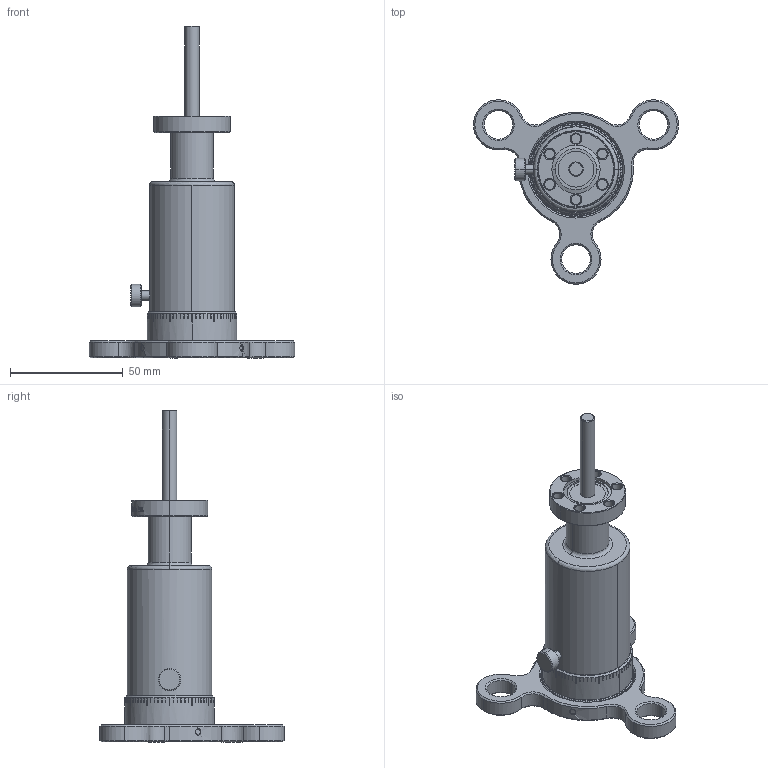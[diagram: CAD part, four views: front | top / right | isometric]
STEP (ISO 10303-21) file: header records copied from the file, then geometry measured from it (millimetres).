
FILE_DESCRIPTION (( 'STEP AP203' ), '1' );
FILE_NAME ('102100-113086.stp', '2019-04-16T18:14:05', ( '' ), ( '' ), 'SwSTEP 2.0', 'SolidWorks 2012', '' );
FILE_SCHEMA (( 'CONFIG_CONTROL_DESIGN' ));
Length unit declared in the file: centimetre
Products named in the file (1): 102100-113086
Bounding box: 90.97 x 81.76 x 147.17 mm (x, y, z)
Volume: 115246.6 mm3; surface area: 22326.6 mm2
Topology: 1 solids, 1 shells, 925 faces, 2572 edges, 1692 vertices
Faces by surface type: plane 479, cylinder 207, bspline 145, cone 94
Entity records: 57997 total; most frequent: CARTESIAN_POINT 35600, ORIENTED_EDGE 5144, DIRECTION 4000, EDGE_CURVE 2572, VERTEX_POINT 1692, AXIS2_PLACEMENT_3D 1450, LINE 1100, VECTOR 1100
